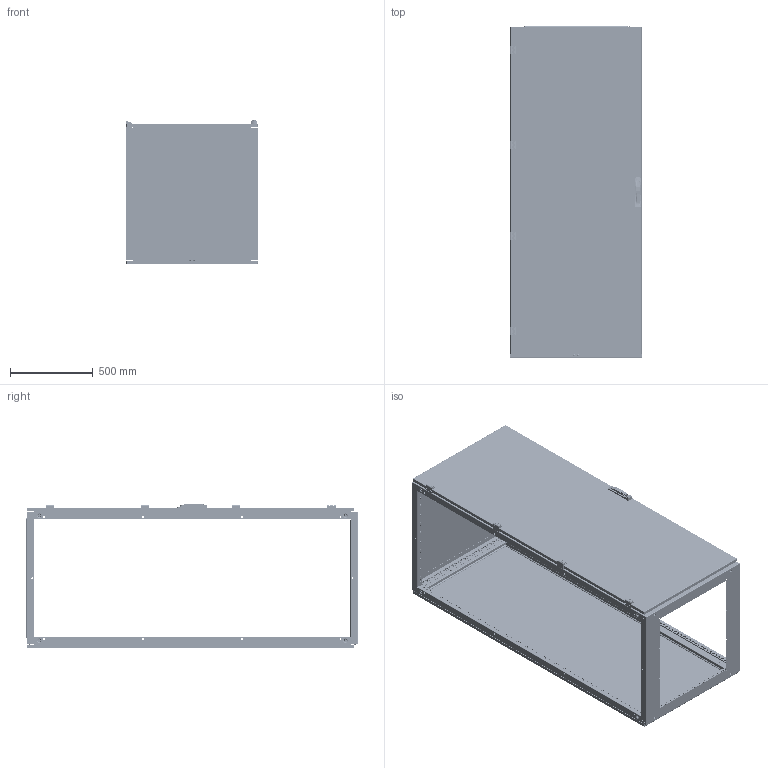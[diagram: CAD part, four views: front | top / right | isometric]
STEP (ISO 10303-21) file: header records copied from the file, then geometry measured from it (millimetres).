
FILE_DESCRIPTION (( 'STEP AP214' ), '1' );
FILE_NAME ('QA200808.step', '2011-08-10T08:50:20', ( 'Radek Veselý' ), ( 'Siemens and Partners' ), 'SwSTEP 2.0', 'SolidWorks 2006303', '' );
FILE_SCHEMA (( 'AUTOMOTIVE_DESIGN' ));
Length unit declared in the file: millimetre
Products named in the file (1): QA200808
Bounding box: 800 x 2004.5 x 876 mm (x, y, z)
Volume: 11642601.9 mm3; surface area: 13597694.3 mm2
Topology: 94 solids, 94 shells, 7287 faces, 19948 edges, 12844 vertices
Faces by surface type: plane 3928, cylinder 2787, cone 300, torus 164, sphere 60, bspline 48
Entity records: 318824 total; most frequent: CARTESIAN_POINT 42522, DIRECTION 40312, ORIENTED_EDGE 39488, EDGE_CURVE 19744, AXIS2_PLACEMENT_3D 13525, VECTOR 13262, LINE 13262, VERTEX_POINT 12828
